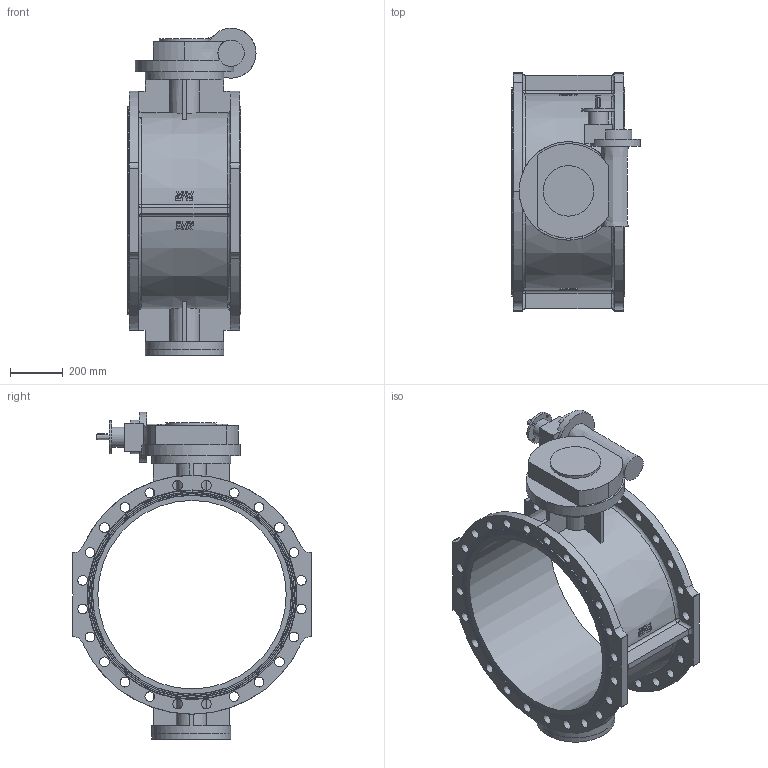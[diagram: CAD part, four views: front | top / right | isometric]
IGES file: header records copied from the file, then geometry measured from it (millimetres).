
Start section: SolidWorks IGES file using analytic representation for surfaces
Global section: file name: \\avksan2\techshare\PBM outline export from Enovia\O_756_102_DN700_1XX_AA0_igs.igs; native system: SolidWorks 2012; preprocessor: SolidWorks 2012; author: pbm; date: 160309.130542; units: millimetre
Bounding box: 487.8 x 910 x 1247.5 mm (x, y, z)
Surface area: 4098269.5 mm2 (no closed solid volume)
Topology: 0 solids, 0 shells, 624 faces, 3480 edges, 3332 vertices
Faces by surface type: bspline 423, revolution 201
